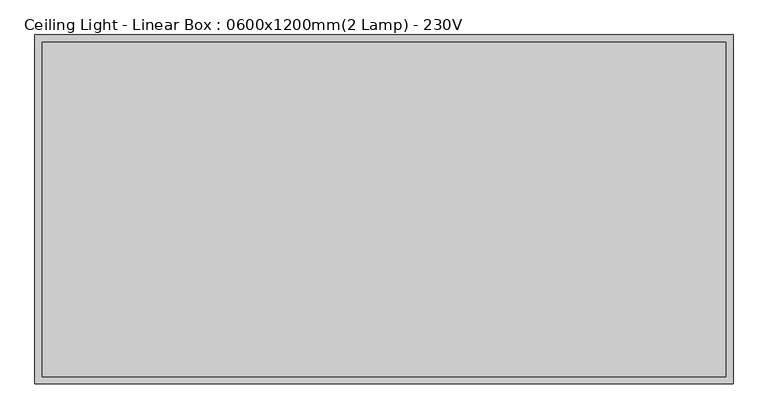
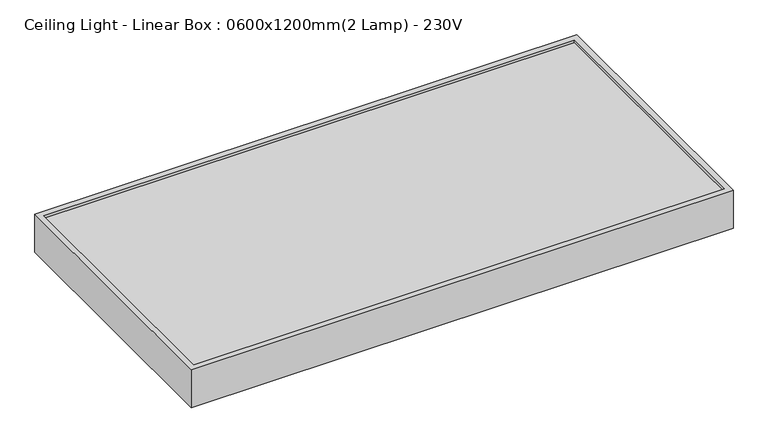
"""IFC4 building model written with IfcOpenShell, lengths in millimetres: light fixture geometry, Ceiling Light - Linear Box : 0600x1200mm(2 Lamp) - 230V."""

from ifc_helpers import new_model, si_unit, frame, origin, origin_with_axes, place, context, project, spatial, polyline, outline, extrude, source, transform, mapped, element, save


def ceiling_light_linear_box_0600x1200mm_2_lamp_230v_26f9dbca(model_context):
    return source(origin(), model_context, "Body", "SweptSolid", [
        extrude(outline(polyline([(587.3, -12.7), (587.3, -587.3), (-587.3, -587.3), (-587.3, -12.7), (587.3, -12.7)])), frame((0.0, 0.0, 76.2), z_axis=(0.0, 0.0, 1.0), x_axis=(1.0, 0.0, 0.0)), (0.0, 0.0, 1.0), 6.35),
        extrude(outline(polyline([(600.0, 0.0), (600.0, -600.0), (-600.0, -600.0), (-600.0, 0.0), (600.0, 0.0)]), holes=[polyline([(587.3, -12.7), (-587.3, -12.7), (-587.3, -587.3), (587.3, -587.3), (587.3, -12.7)])]), origin_with_axes(), (0.0, 0.0, 1.0), 88.9),
    ])


if __name__ == "__main__":
    model = new_model("IFC4")
    model_context = context("Model", 3, world=origin())
    ifc_project = project(units=[si_unit("LENGTHUNIT", "METRE", prefix="MILLI")], contexts=[model_context])
    site = spatial("IfcSite", under=ifc_project)
    building = spatial("IfcBuilding", under=site)
    placement = place(None, origin())
    ceiling_light_linear_box_0600x1200mm_2_lamp_230v_shape = ceiling_light_linear_box_0600x1200mm_2_lamp_230v_26f9dbca(model_context)
    element("IfcLightFixture", 1, ObjectType="Ceiling Light - Linear Box : 0600x1200mm(2 Lamp) - 230V", at=placement, inside=building, context=model_context, shape_type="MappedRepresentation", body=[
        mapped(ceiling_light_linear_box_0600x1200mm_2_lamp_230v_shape, transform((0.0, 0.0, 0.0), x_axis=(1.0, 0.0, 0.0), y_axis=(0.0, 1.0, 0.0), z_axis=(0.0, 0.0, 1.0))),
    ])
    save(model, "model.ifc")
